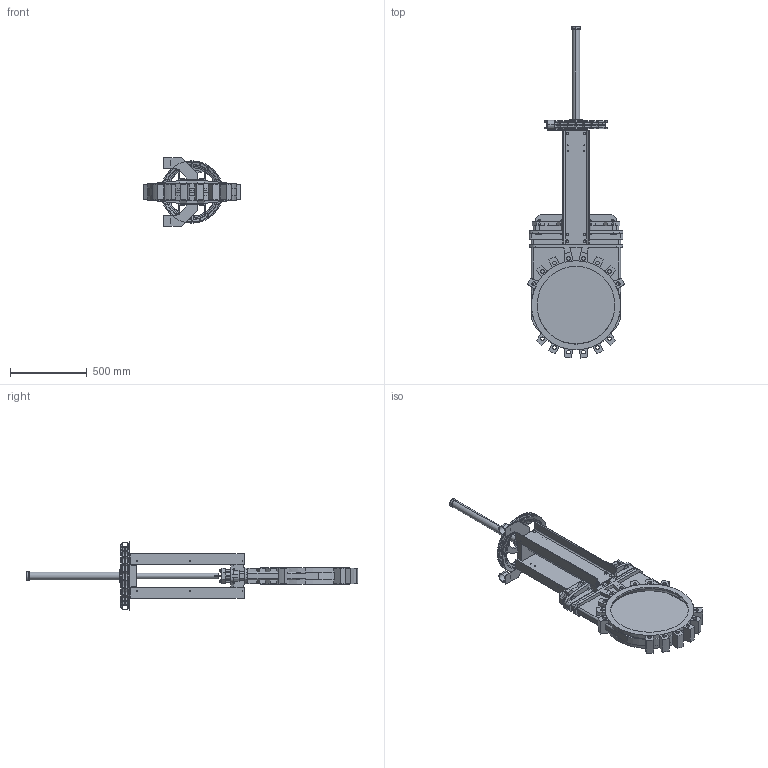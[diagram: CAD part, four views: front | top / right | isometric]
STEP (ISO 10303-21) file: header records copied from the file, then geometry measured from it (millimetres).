
FILE_DESCRIPTION (( 'STEP AP203' ), '1' );
FILE_NAME ('VG C DN500.STEP', '2010-01-29T01:11:40', ( 'farex' ), ( '' ), 'SwSTEP 2.0', 'SolidWorks 2009', '' );
FILE_SCHEMA (( 'CONFIG_CONTROL_DESIGN' ));
Products named in the file (1): VG C DN500
Bounding box: 635.7 x 2169.54 x 450 mm (x, y, z)
Volume: 30910373.8 mm3; surface area: 3594211.7 mm2
Topology: 4 solids, 6 shells, 1596 faces, 4401 edges, 2880 vertices
Faces by surface type: plane 723, cylinder 381, bspline 331, cone 131, torus 30
Entity records: 76491 total; most frequent: CARTESIAN_POINT 37561, ORIENTED_EDGE 8802, DIRECTION 7080, EDGE_CURVE 4401, VERTEX_POINT 2880, AXIS2_PLACEMENT_3D 2395, LINE 2290, VECTOR 2290
